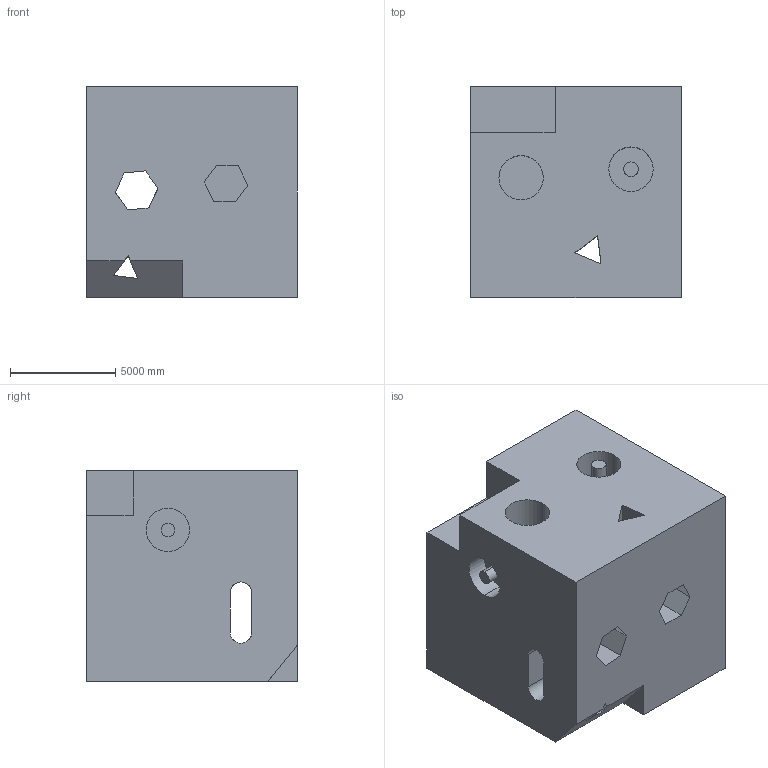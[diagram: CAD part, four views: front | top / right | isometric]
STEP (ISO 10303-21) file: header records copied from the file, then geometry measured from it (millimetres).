
FILE_DESCRIPTION (( 'STEP AP203' ), '1' );
FILE_NAME ('1951.STEP', '2022-08-23T09:52:46', ( 'user' ), ( '' ), 'SwSTEP 2.0', 'SolidWorks 2021', '' );
FILE_SCHEMA (( 'CONFIG_CONTROL_DESIGN' ));
Length unit declared in the file: centimetre
Products named in the file (1): 1951
Bounding box: 10000 x 10000 x 10000 mm (x, y, z)
Volume: 873136819561.8 mm3; surface area: 865488918.4 mm2
Topology: 1 solids, 1 shells, 55 faces, 159 edges, 106 vertices
Faces by surface type: plane 39, cylinder 16
Entity records: 1904 total; most frequent: CARTESIAN_POINT 363, ORIENTED_EDGE 318, DIRECTION 283, EDGE_CURVE 159, VECTOR 119, LINE 119, VERTEX_POINT 106, AXIS2_PLACEMENT_3D 82
